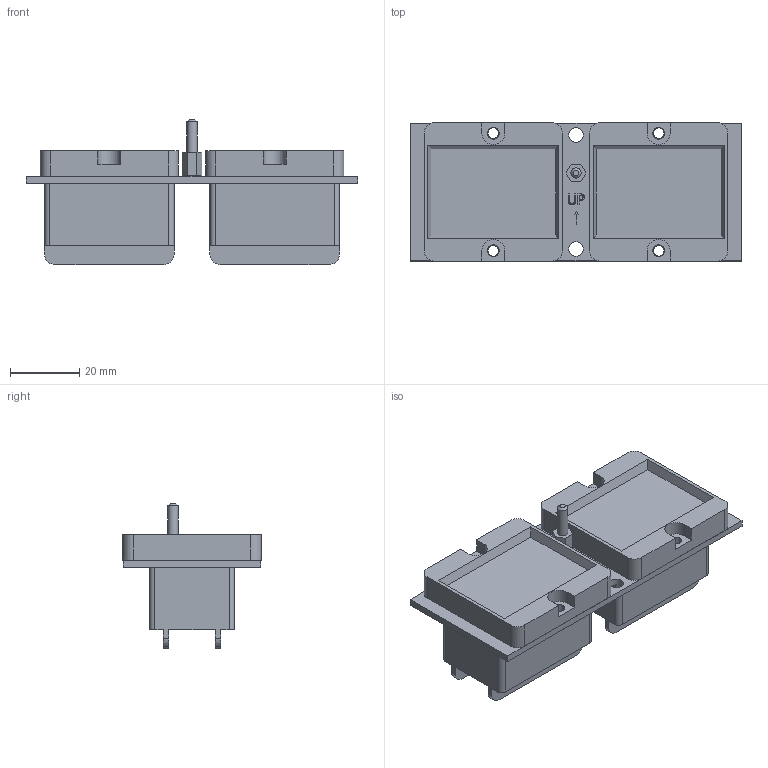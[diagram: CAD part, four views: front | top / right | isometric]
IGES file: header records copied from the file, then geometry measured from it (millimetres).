
Global section: file name: No Iges File Name specified; native system: Autodesk Inventor 2012; preprocessor: AutoDesk Inventor Iges Exporter R2012; author: a.vos; date: 20120213.152710; units: millimetre
Bounding box: 95.9 x 40 x 42 mm (x, y, z)
Surface area: 18553.1 mm2 (no closed solid volume)
Topology: 0 solids, 0 shells, 185 faces, 992 edges, 976 vertices
Faces by surface type: plane 117, revolution 52, bspline 16
